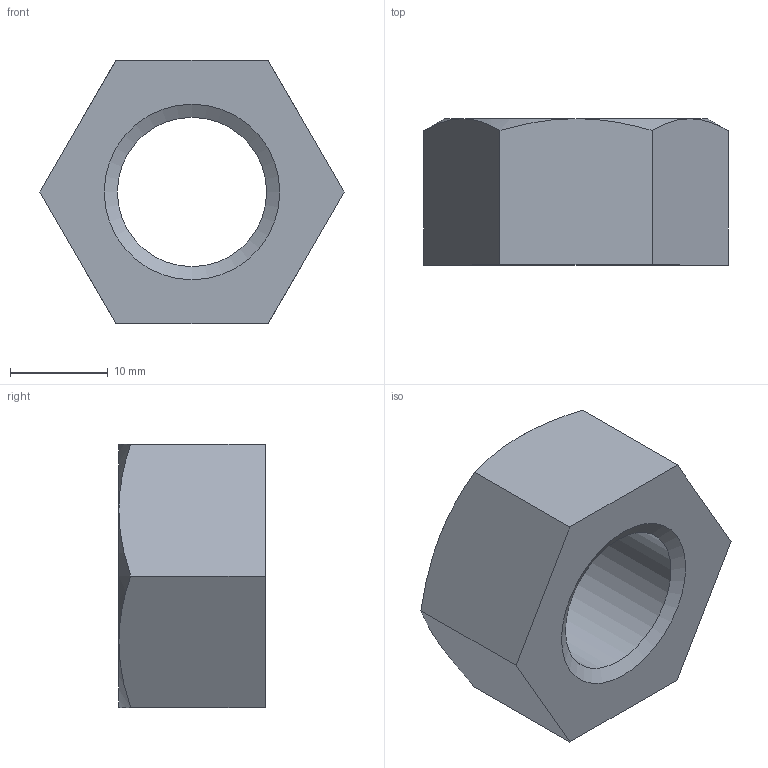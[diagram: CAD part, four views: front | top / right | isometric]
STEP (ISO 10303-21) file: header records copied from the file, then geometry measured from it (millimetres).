
FILE_DESCRIPTION(/* description */ (''),/* implementation_level */ '2;1');
FILE_NAME(/* name */ 'C:\Users\unitec\Desktop\ナット1種 中\M18.stp',/* time_stamp */ '2014-05-08T16:48:33+09:00',/* author */ ('unitec'),/* organization */ (''),/* preprocessor_version */ 'ST-DEVELOPER v15.2',/* originating_system */ 'Autodesk Inventor 2014',/* authorisation */ '');
FILE_SCHEMA (('AUTOMOTIVE_DESIGN { 1 0 10303 214 3 1 1 }'));
Length unit declared in the file: millimetre
Products named in the file (1): M18
Bounding box: 31.18 x 15 x 27 mm (x, y, z)
Volume: 6639.2 mm3; surface area: 2936.2 mm2
Topology: 1 solids, 1 shells, 17 faces, 37 edges, 22 vertices
Faces by surface type: cone 8, plane 8, cylinder 1
Full cylindrical faces by diameter (mm): 15.294 x1
Entity records: 455 total; most frequent: CARTESIAN_POINT 98, ORIENTED_EDGE 68, DIRECTION 68, EDGE_CURVE 34, AXIS2_PLACEMENT_3D 28, EDGE_LOOP 22, VERTEX_POINT 22, ADVANCED_FACE 17
